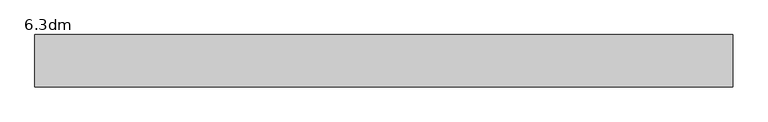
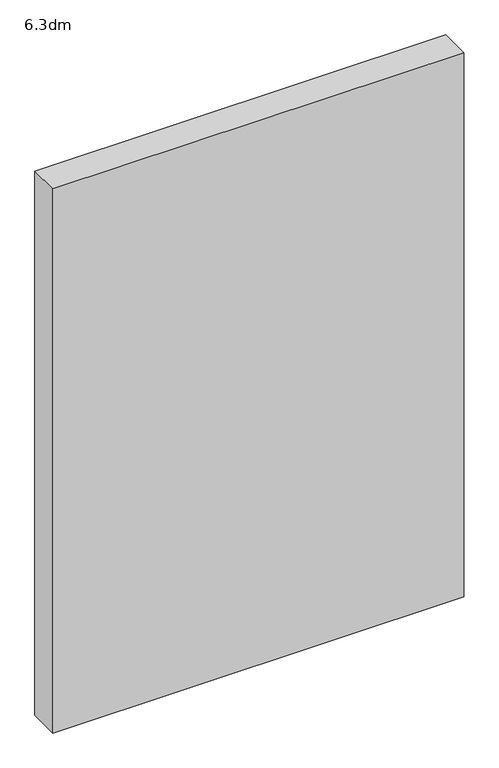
"""IFC4 building model written with IfcOpenShell, lengths in millimetres: proxy geometry, 6.3dm."""

from ifc_helpers import new_model, si_unit, origin, origin_with_axes, place, context, project, spatial, polyline, outline, extrude, source, transform, mapped, element, save


def proxy_6_3dm_c16412cb(model_context):
    return source(origin(), model_context, "Body", "SweptSolid", [
        extrude(outline(polyline([(11335.0011681, 6.0), (11335.0011681, 156.0), (13335.0011681, 156.0), (13335.0011681, 6.0), (11335.0011681, 6.0)])), origin_with_axes(), (0.0, 0.0, 1.0), 2800.0),
    ])


if __name__ == "__main__":
    model = new_model("IFC4")
    model_context = context("Model", 3, world=origin())
    ifc_project = project(units=[si_unit("LENGTHUNIT", "METRE", prefix="MILLI")], contexts=[model_context])
    site = spatial("IfcSite", under=ifc_project)
    building = spatial("IfcBuilding", under=site)
    placement = place(None, origin())
    proxy_6_3dm_shape = proxy_6_3dm_c16412cb(model_context)
    element("IfcBuildingElementProxy", 1, Name="6.3dm", ObjectType="6.3dm", at=placement, inside=building, context=model_context, shape_type="MappedRepresentation", body=[
        mapped(proxy_6_3dm_shape, transform((0.0, 0.0, 0.0), x_axis=(1.0, 0.0, 0.0), y_axis=(0.0, 1.0, 0.0), z_axis=(0.0, 0.0, 1.0))),
    ])
    save(model, "model.ifc")
